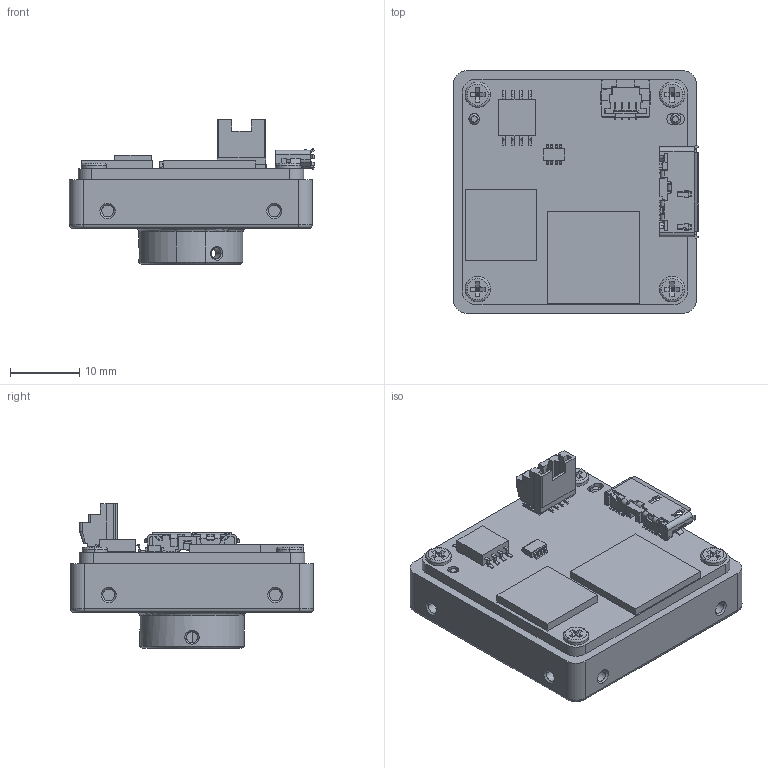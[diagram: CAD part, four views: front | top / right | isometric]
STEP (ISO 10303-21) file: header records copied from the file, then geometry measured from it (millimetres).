
FILE_DESCRIPTION((''),'2;1');
FILE_NAME('12MP_M120001','2019-07-12T17:25:39',('wangyijun6'),(''),'CREO PARAMETRIC BY PTC INC, 2017260','CREO PARAMETRIC BY PTC INC, 2017260','');
FILE_SCHEMA(('CONFIG_CONTROL_DESIGN'));
Length unit declared in the file: millimetre
Products named in the file (1): 12MP_M120001
Bounding box: 35.32 x 35 x 20.85 mm (x, y, z)
Volume: 10867.3 mm3; surface area: 5555.7 mm2
Topology: 2 solids, 11 shells, 1300 faces, 3740 edges, 2459 vertices
Faces by surface type: plane 855, cylinder 381, cone 40, torus 14, bspline 10
Entity records: 44346 total; most frequent: CARTESIAN_POINT 9719, ORIENTED_EDGE 7472, DIRECTION 6954, EDGE_CURVE 3736, VECTOR 2682, LINE 2682, VERTEX_POINT 2459, AXIS2_PLACEMENT_3D 2136
